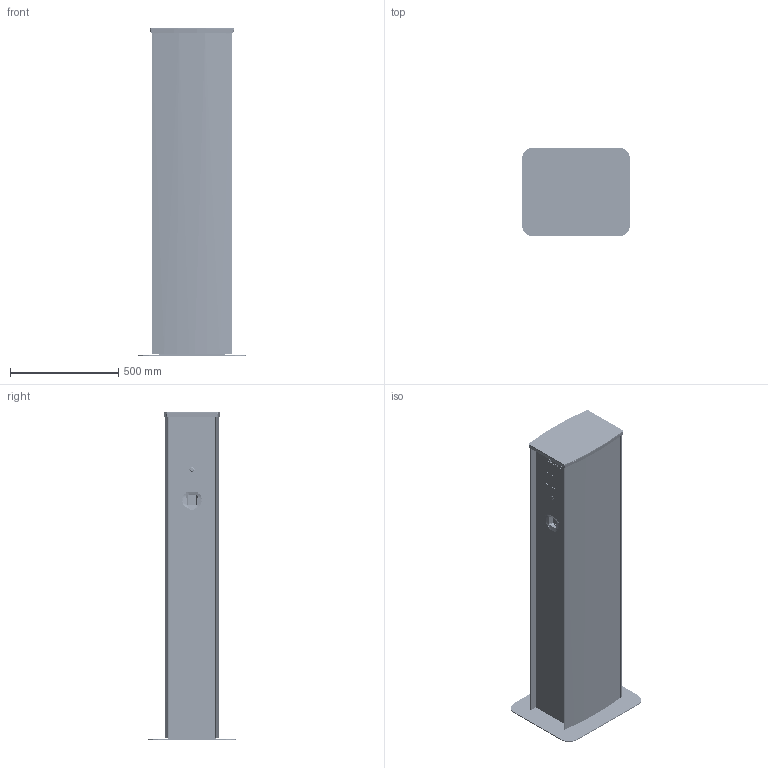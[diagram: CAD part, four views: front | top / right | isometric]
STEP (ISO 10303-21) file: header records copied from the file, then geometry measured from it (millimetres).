
FILE_DESCRIPTION(/* description */ (''),/* implementation_level */ '2;1');
FILE_NAME(/* name */ '4007704.stp',/* time_stamp */ '2022-07-22T08:13:59+02:00',/* author */ (''),/* organization */ (''),/* preprocessor_version */ 'ST-DEVELOPER v18.102',/* originating_system */ 'SIEMENS PLM Software NX 2000',/* authorisation */ '');
FILE_SCHEMA (('AUTOMOTIVE_DESIGN { 1 0 10303 214 3 1 1 1 }'));
Products named in the file (1): BSOM27943A42eso2
Bounding box: 500 x 410 x 1510 mm (x, y, z)
Volume: 7750889.9 mm3; surface area: 7849913.8 mm2
Topology: 33 solids, 35 shells, 14371 faces, 37091 edges, 22778 vertices
Faces by surface type: plane 4926, cylinder 3247, bspline 2628, cone 1770, torus 1206, sphere 322, extrusion 254, revolution 18
Full cylindrical faces by diameter (mm): 0.203 x24, 2 x4, 2.3 x4, 2.5 x4, 3.5 x4, 3.683 x2, 3.937 x2, 4 x4, 4.2 x6, 4.642 x2, 4.648 x2, 5 x16, 6 x55, 7 x10, 7.794 x4, 8 x18, 10 x2, 10.1 x2, 10.469 x8, 11.63 x4, 13 x2, 15 x2, 17.1 x2, 18 x2, 18.1 x2, 20.1 x2, 22.5 x2, 25 x2, 25.5 x2, 95.2 x2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
Entity records: 538087 total; most frequent: CARTESIAN_POINT 208764, ORIENTED_EDGE 70990, DIRECTION 64250, EDGE_CURVE 35495, AXIS2_PLACEMENT_3D 24605, VERTEX_POINT 22401, EDGE_LOOP 16122, VECTOR 15022
